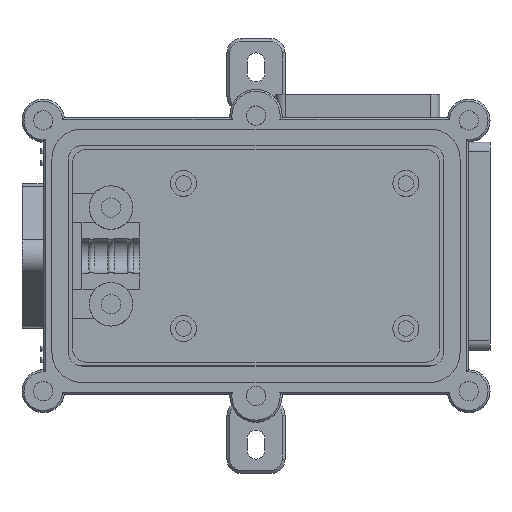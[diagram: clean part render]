
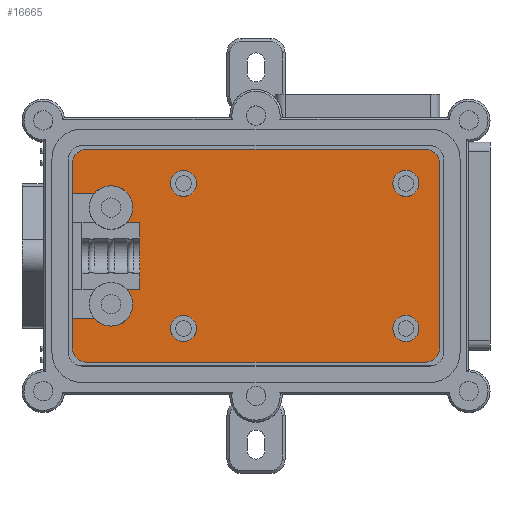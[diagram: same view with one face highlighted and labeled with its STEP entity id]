
A CAD part, top view. The second image highlights one B-rep face of the part: STEP entity #16665.
In plain terms, the highlighted planar face has unit normal (0, 0, 1).
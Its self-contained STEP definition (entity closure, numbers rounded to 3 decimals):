
#14449 = VERTEX_POINT('',#14450);
#14450 = CARTESIAN_POINT('',(56.,43.,3.));
#14457 = EDGE_CURVE('',#14449,#14458,#14460,.T.);
#14458 = VERTEX_POINT('',#14459);
#14459 = CARTESIAN_POINT('',(21.628,43.,3.));
#14460 = LINE('',#14461,#14462);
#14461 = CARTESIAN_POINT('',(56.,43.,3.));
#14462 = VECTOR('',#14463,1.);
#14463 = DIRECTION('',(-1.,0.,0.));
#16625 = VERTEX_POINT('',#16626);
#16626 = CARTESIAN_POINT('',(58.598,41.5,3.));
#16634 = EDGE_CURVE('',#16625,#14449,#16635,.T.);
#16635 = CIRCLE('',#16636,3.);
#16636 = AXIS2_PLACEMENT_3D('',#16637,#16638,#16639);
#16637 = CARTESIAN_POINT('',(56.,40.,3.));
#16638 = DIRECTION('',(0.,0.,1.));
#16639 = DIRECTION('',(1.,0.,-0.));
#16665 = ADVANCED_FACE('',(#16666,#16861,#16872,#16883,#16894),#16905,
  .T.);
#16666 = FACE_BOUND('',#16667,.T.);
#16667 = EDGE_LOOP('',(#16668,#16679,#16687,#16696,#16704,#16712,#16720,
    #16726,#16727,#16728,#16737,#16745,#16754,#16762,#16770,#16779,
    #16788,#16796,#16804,#16812,#16821,#16830,#16838,#16846,#16855));
#16668 = ORIENTED_EDGE('',*,*,#16669,.F.);
#16669 = EDGE_CURVE('',#16670,#16672,#16674,.T.);
#16670 = VERTEX_POINT('',#16671);
#16671 = CARTESIAN_POINT('',(21.628,-7.,3.));
#16672 = VERTEX_POINT('',#16673);
#16673 = CARTESIAN_POINT('',(14.372,-7.,3.));
#16674 = CIRCLE('',#16675,5.4);
#16675 = AXIS2_PLACEMENT_3D('',#16676,#16677,#16678);
#16676 = CARTESIAN_POINT('',(18.,-11.,3.));
#16677 = DIRECTION('',(0.,0.,1.));
#16678 = DIRECTION('',(1.,0.,-0.));
#16679 = ORIENTED_EDGE('',*,*,#16680,.T.);
#16680 = EDGE_CURVE('',#16670,#16681,#16683,.T.);
#16681 = VERTEX_POINT('',#16682);
#16682 = CARTESIAN_POINT('',(56.,-7.,3.));
#16683 = LINE('',#16684,#16685);
#16684 = CARTESIAN_POINT('',(-20.,-7.,3.));
#16685 = VECTOR('',#16686,1.);
#16686 = DIRECTION('',(1.,0.,0.));
#16687 = ORIENTED_EDGE('',*,*,#16688,.T.);
#16688 = EDGE_CURVE('',#16681,#16689,#16691,.T.);
#16689 = VERTEX_POINT('',#16690);
#16690 = CARTESIAN_POINT('',(59.,-4.,3.));
#16691 = CIRCLE('',#16692,3.);
#16692 = AXIS2_PLACEMENT_3D('',#16693,#16694,#16695);
#16693 = CARTESIAN_POINT('',(56.,-4.,3.));
#16694 = DIRECTION('',(0.,0.,1.));
#16695 = DIRECTION('',(1.,0.,-0.));
#16696 = ORIENTED_EDGE('',*,*,#16697,.T.);
#16697 = EDGE_CURVE('',#16689,#16698,#16700,.T.);
#16698 = VERTEX_POINT('',#16699);
#16699 = CARTESIAN_POINT('',(59.,-1.5,3.));
#16700 = LINE('',#16701,#16702);
#16701 = CARTESIAN_POINT('',(59.,-4.,3.));
#16702 = VECTOR('',#16703,1.);
#16703 = DIRECTION('',(0.,1.,0.));
#16704 = ORIENTED_EDGE('',*,*,#16705,.T.);
#16705 = EDGE_CURVE('',#16698,#16706,#16708,.T.);
#16706 = VERTEX_POINT('',#16707);
#16707 = CARTESIAN_POINT('',(58.4,-1.5,3.));
#16708 = LINE('',#16709,#16710);
#16709 = CARTESIAN_POINT('',(57.2,-1.5,3.));
#16710 = VECTOR('',#16711,1.);
#16711 = DIRECTION('',(-1.,0.,0.));
#16712 = ORIENTED_EDGE('',*,*,#16713,.F.);
#16713 = EDGE_CURVE('',#16714,#16706,#16716,.T.);
#16714 = VERTEX_POINT('',#16715);
#16715 = CARTESIAN_POINT('',(58.4,41.5,3.));
#16716 = LINE('',#16717,#16718);
#16717 = CARTESIAN_POINT('',(58.4,8.,3.));
#16718 = VECTOR('',#16719,1.);
#16719 = DIRECTION('',(0.,-1.,0.));
#16720 = ORIENTED_EDGE('',*,*,#16721,.F.);
#16721 = EDGE_CURVE('',#16625,#16714,#16722,.T.);
#16722 = LINE('',#16723,#16724);
#16723 = CARTESIAN_POINT('',(57.2,41.5,3.));
#16724 = VECTOR('',#16725,1.);
#16725 = DIRECTION('',(-1.,0.,0.));
#16726 = ORIENTED_EDGE('',*,*,#16634,.T.);
#16727 = ORIENTED_EDGE('',*,*,#14457,.T.);
#16728 = ORIENTED_EDGE('',*,*,#16729,.F.);
#16729 = EDGE_CURVE('',#16730,#14458,#16732,.T.);
#16730 = VERTEX_POINT('',#16731);
#16731 = CARTESIAN_POINT('',(14.372,43.,3.));
#16732 = CIRCLE('',#16733,5.4);
#16733 = AXIS2_PLACEMENT_3D('',#16734,#16735,#16736);
#16734 = CARTESIAN_POINT('',(18.,47.,3.));
#16735 = DIRECTION('',(0.,0.,1.));
#16736 = DIRECTION('',(1.,0.,-0.));
#16737 = ORIENTED_EDGE('',*,*,#16738,.T.);
#16738 = EDGE_CURVE('',#16730,#16739,#16741,.T.);
#16739 = VERTEX_POINT('',#16740);
#16740 = CARTESIAN_POINT('',(-20.,43.,3.));
#16741 = LINE('',#16742,#16743);
#16742 = CARTESIAN_POINT('',(56.,43.,3.));
#16743 = VECTOR('',#16744,1.);
#16744 = DIRECTION('',(-1.,0.,0.));
#16745 = ORIENTED_EDGE('',*,*,#16746,.T.);
#16746 = EDGE_CURVE('',#16739,#16747,#16749,.T.);
#16747 = VERTEX_POINT('',#16748);
#16748 = CARTESIAN_POINT('',(-23.,40.,3.));
#16749 = CIRCLE('',#16750,3.);
#16750 = AXIS2_PLACEMENT_3D('',#16751,#16752,#16753);
#16751 = CARTESIAN_POINT('',(-20.,40.,3.));
#16752 = DIRECTION('',(0.,0.,1.));
#16753 = DIRECTION('',(1.,0.,-0.));
#16754 = ORIENTED_EDGE('',*,*,#16755,.T.);
#16755 = EDGE_CURVE('',#16747,#16756,#16758,.T.);
#16756 = VERTEX_POINT('',#16757);
#16757 = CARTESIAN_POINT('',(-23.,31.,3.));
#16758 = LINE('',#16759,#16760);
#16759 = CARTESIAN_POINT('',(-23.,40.,3.));
#16760 = VECTOR('',#16761,1.);
#16761 = DIRECTION('',(0.,-1.,0.));
#16762 = ORIENTED_EDGE('',*,*,#16763,.T.);
#16763 = EDGE_CURVE('',#16756,#16764,#16766,.T.);
#16764 = VERTEX_POINT('',#16765);
#16765 = CARTESIAN_POINT('',(-15.354,31.,3.));
#16766 = LINE('',#16767,#16768);
#16767 = CARTESIAN_POINT('',(-23.,31.,3.));
#16768 = VECTOR('',#16769,1.);
#16769 = DIRECTION('',(1.,0.,-0.));
#16770 = ORIENTED_EDGE('',*,*,#16771,.F.);
#16771 = EDGE_CURVE('',#16772,#16764,#16774,.T.);
#16772 = VERTEX_POINT('',#16773);
#16773 = CARTESIAN_POINT('',(-7.5,28.,3.));
#16774 = CIRCLE('',#16775,4.5);
#16775 = AXIS2_PLACEMENT_3D('',#16776,#16777,#16778);
#16776 = CARTESIAN_POINT('',(-12.,28.,3.));
#16777 = DIRECTION('',(0.,0.,1.));
#16778 = DIRECTION('',(1.,0.,-0.));
#16779 = ORIENTED_EDGE('',*,*,#16780,.F.);
#16780 = EDGE_CURVE('',#16781,#16772,#16783,.T.);
#16781 = VERTEX_POINT('',#16782);
#16782 = CARTESIAN_POINT('',(-8.646,25.,3.));
#16783 = CIRCLE('',#16784,4.5);
#16784 = AXIS2_PLACEMENT_3D('',#16785,#16786,#16787);
#16785 = CARTESIAN_POINT('',(-12.,28.,3.));
#16786 = DIRECTION('',(0.,0.,1.));
#16787 = DIRECTION('',(1.,0.,-0.));
#16788 = ORIENTED_EDGE('',*,*,#16789,.T.);
#16789 = EDGE_CURVE('',#16781,#16790,#16792,.T.);
#16790 = VERTEX_POINT('',#16791);
#16791 = CARTESIAN_POINT('',(-6.,25.,3.));
#16792 = LINE('',#16793,#16794);
#16793 = CARTESIAN_POINT('',(-18.,25.,3.));
#16794 = VECTOR('',#16795,1.);
#16795 = DIRECTION('',(1.,0.,-0.));
#16796 = ORIENTED_EDGE('',*,*,#16797,.F.);
#16797 = EDGE_CURVE('',#16798,#16790,#16800,.T.);
#16798 = VERTEX_POINT('',#16799);
#16799 = CARTESIAN_POINT('',(-6.,11.,3.));
#16800 = LINE('',#16801,#16802);
#16801 = CARTESIAN_POINT('',(-6.,11.,3.));
#16802 = VECTOR('',#16803,1.);
#16803 = DIRECTION('',(-0.,1.,0.));
#16804 = ORIENTED_EDGE('',*,*,#16805,.F.);
#16805 = EDGE_CURVE('',#16806,#16798,#16808,.T.);
#16806 = VERTEX_POINT('',#16807);
#16807 = CARTESIAN_POINT('',(-8.646,11.,3.));
#16808 = LINE('',#16809,#16810);
#16809 = CARTESIAN_POINT('',(-18.,11.,3.));
#16810 = VECTOR('',#16811,1.);
#16811 = DIRECTION('',(1.,0.,-0.));
#16812 = ORIENTED_EDGE('',*,*,#16813,.F.);
#16813 = EDGE_CURVE('',#16814,#16806,#16816,.T.);
#16814 = VERTEX_POINT('',#16815);
#16815 = CARTESIAN_POINT('',(-7.5,8.,3.));
#16816 = CIRCLE('',#16817,4.5);
#16817 = AXIS2_PLACEMENT_3D('',#16818,#16819,#16820);
#16818 = CARTESIAN_POINT('',(-12.,8.,3.));
#16819 = DIRECTION('',(0.,0.,1.));
#16820 = DIRECTION('',(1.,0.,-0.));
#16821 = ORIENTED_EDGE('',*,*,#16822,.F.);
#16822 = EDGE_CURVE('',#16823,#16814,#16825,.T.);
#16823 = VERTEX_POINT('',#16824);
#16824 = CARTESIAN_POINT('',(-15.354,5.,3.));
#16825 = CIRCLE('',#16826,4.5);
#16826 = AXIS2_PLACEMENT_3D('',#16827,#16828,#16829);
#16827 = CARTESIAN_POINT('',(-12.,8.,3.));
#16828 = DIRECTION('',(0.,0.,1.));
#16829 = DIRECTION('',(1.,0.,-0.));
#16830 = ORIENTED_EDGE('',*,*,#16831,.F.);
#16831 = EDGE_CURVE('',#16832,#16823,#16834,.T.);
#16832 = VERTEX_POINT('',#16833);
#16833 = CARTESIAN_POINT('',(-23.,5.,3.));
#16834 = LINE('',#16835,#16836);
#16835 = CARTESIAN_POINT('',(-23.,5.,3.));
#16836 = VECTOR('',#16837,1.);
#16837 = DIRECTION('',(1.,0.,-0.));
#16838 = ORIENTED_EDGE('',*,*,#16839,.T.);
#16839 = EDGE_CURVE('',#16832,#16840,#16842,.T.);
#16840 = VERTEX_POINT('',#16841);
#16841 = CARTESIAN_POINT('',(-23.,-4.,3.));
#16842 = LINE('',#16843,#16844);
#16843 = CARTESIAN_POINT('',(-23.,40.,3.));
#16844 = VECTOR('',#16845,1.);
#16845 = DIRECTION('',(0.,-1.,0.));
#16846 = ORIENTED_EDGE('',*,*,#16847,.T.);
#16847 = EDGE_CURVE('',#16840,#16848,#16850,.T.);
#16848 = VERTEX_POINT('',#16849);
#16849 = CARTESIAN_POINT('',(-20.,-7.,3.));
#16850 = CIRCLE('',#16851,3.);
#16851 = AXIS2_PLACEMENT_3D('',#16852,#16853,#16854);
#16852 = CARTESIAN_POINT('',(-20.,-4.,3.));
#16853 = DIRECTION('',(0.,0.,1.));
#16854 = DIRECTION('',(1.,0.,-0.));
#16855 = ORIENTED_EDGE('',*,*,#16856,.T.);
#16856 = EDGE_CURVE('',#16848,#16672,#16857,.T.);
#16857 = LINE('',#16858,#16859);
#16858 = CARTESIAN_POINT('',(-20.,-7.,3.));
#16859 = VECTOR('',#16860,1.);
#16860 = DIRECTION('',(1.,0.,0.));
#16861 = FACE_BOUND('',#16862,.T.);
#16862 = EDGE_LOOP('',(#16863));
#16863 = ORIENTED_EDGE('',*,*,#16864,.F.);
#16864 = EDGE_CURVE('',#16865,#16865,#16867,.T.);
#16865 = VERTEX_POINT('',#16866);
#16866 = CARTESIAN_POINT('',(5.7,3.,3.));
#16867 = CIRCLE('',#16868,2.7);
#16868 = AXIS2_PLACEMENT_3D('',#16869,#16870,#16871);
#16869 = CARTESIAN_POINT('',(3.,3.,3.));
#16870 = DIRECTION('',(0.,0.,1.));
#16871 = DIRECTION('',(1.,0.,-0.));
#16872 = FACE_BOUND('',#16873,.T.);
#16873 = EDGE_LOOP('',(#16874));
#16874 = ORIENTED_EDGE('',*,*,#16875,.F.);
#16875 = EDGE_CURVE('',#16876,#16876,#16878,.T.);
#16876 = VERTEX_POINT('',#16877);
#16877 = CARTESIAN_POINT('',(51.7,3.,3.));
#16878 = CIRCLE('',#16879,2.7);
#16879 = AXIS2_PLACEMENT_3D('',#16880,#16881,#16882);
#16880 = CARTESIAN_POINT('',(49.,3.,3.));
#16881 = DIRECTION('',(0.,0.,1.));
#16882 = DIRECTION('',(1.,0.,-0.));
#16883 = FACE_BOUND('',#16884,.T.);
#16884 = EDGE_LOOP('',(#16885));
#16885 = ORIENTED_EDGE('',*,*,#16886,.F.);
#16886 = EDGE_CURVE('',#16887,#16887,#16889,.T.);
#16887 = VERTEX_POINT('',#16888);
#16888 = CARTESIAN_POINT('',(5.7,33.,3.));
#16889 = CIRCLE('',#16890,2.7);
#16890 = AXIS2_PLACEMENT_3D('',#16891,#16892,#16893);
#16891 = CARTESIAN_POINT('',(3.,33.,3.));
#16892 = DIRECTION('',(0.,0.,1.));
#16893 = DIRECTION('',(1.,0.,-0.));
#16894 = FACE_BOUND('',#16895,.T.);
#16895 = EDGE_LOOP('',(#16896));
#16896 = ORIENTED_EDGE('',*,*,#16897,.F.);
#16897 = EDGE_CURVE('',#16898,#16898,#16900,.T.);
#16898 = VERTEX_POINT('',#16899);
#16899 = CARTESIAN_POINT('',(51.7,33.,3.));
#16900 = CIRCLE('',#16901,2.7);
#16901 = AXIS2_PLACEMENT_3D('',#16902,#16903,#16904);
#16902 = CARTESIAN_POINT('',(49.,33.,3.));
#16903 = DIRECTION('',(0.,0.,1.));
#16904 = DIRECTION('',(1.,0.,-0.));
#16905 = PLANE('',#16906);
#16906 = AXIS2_PLACEMENT_3D('',#16907,#16908,#16909);
#16907 = CARTESIAN_POINT('',(56.,-4.,3.));
#16908 = DIRECTION('',(0.,0.,1.));
#16909 = DIRECTION('',(1.,0.,-0.));
